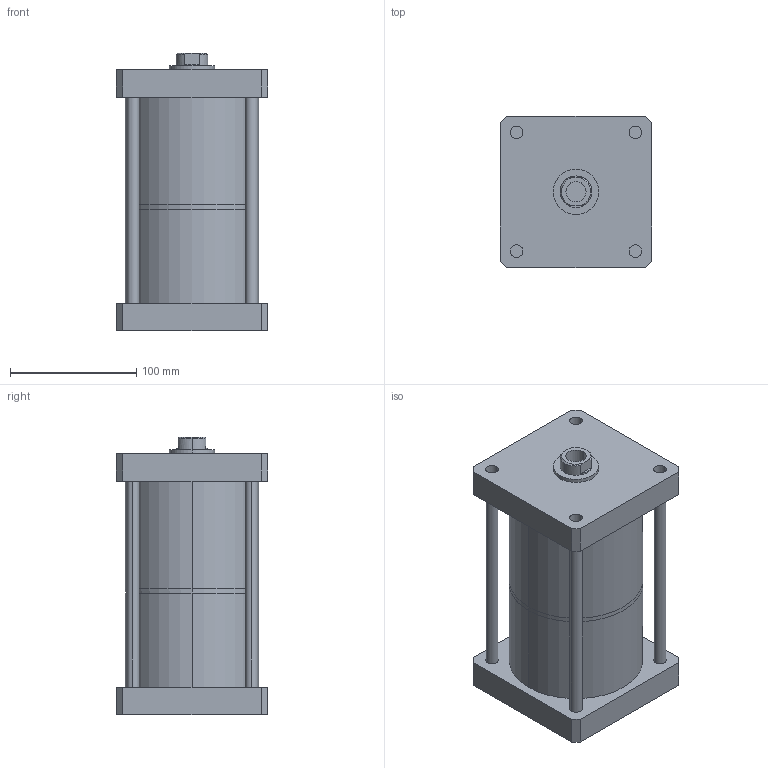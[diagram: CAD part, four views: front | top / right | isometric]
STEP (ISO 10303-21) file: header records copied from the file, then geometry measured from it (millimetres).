
FILE_DESCRIPTION (( 'STEP AP203' ), '1' );
FILE_NAME ('MHK-100-50-F-2.STEP', '2016-03-31T03:28:02', ( 'WIN' ), ( '' ), 'SwSTEP 2.0', 'SolidWorks 2014', '' );
FILE_SCHEMA (( 'CONFIG_CONTROL_DESIGN' ));
Length unit declared in the file: millimetre
Products named in the file (1): MHK-100-50-F-2
Bounding box: 120 x 120 x 220 mm (x, y, z)
Volume: 2103423.6 mm3; surface area: 185221.5 mm2
Topology: 3 solids, 3 shells, 134 faces, 310 edges, 203 vertices
Faces by surface type: plane 74, cylinder 49, cone 11
Entity records: 3894 total; most frequent: DIRECTION 687, CARTESIAN_POINT 656, ORIENTED_EDGE 612, EDGE_CURVE 306, AXIS2_PLACEMENT_3D 250, VERTEX_POINT 203, VECTOR 187, LINE 187
